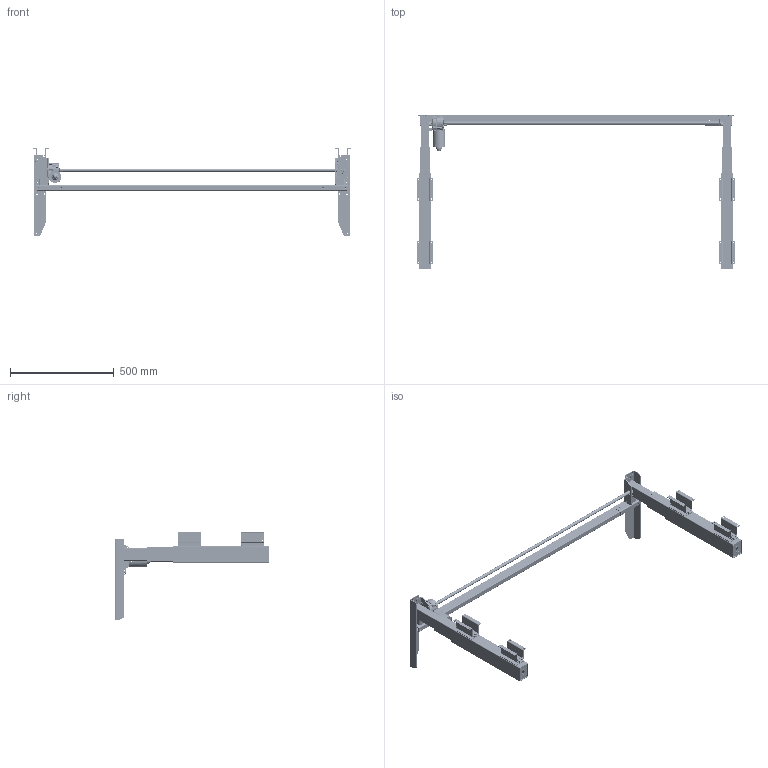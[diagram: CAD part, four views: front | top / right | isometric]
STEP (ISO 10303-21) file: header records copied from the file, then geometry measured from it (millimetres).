
FILE_DESCRIPTION (( 'STEP AP214' ), '1' );
FILE_NAME ('Tech-draw_501-39_XX152.STEP', '2024-09-11T10:52:17', ( '' ), ( '' ), 'SwSTEP 2.0', 'SolidWorks 2023', '' );
FILE_SCHEMA (( 'AUTOMOTIVE_DESIGN' ));
Length unit declared in the file: millimetre
Products named in the file (106): 160590_Shell view; 341800; 359090; 301890; 341220; 142920_Shell view; 342990; 321260; 144260_152; 328870; 335380; 311580; 321180; 346340; 346210_White; 340560; 356120; 321190; 314130; 346640; 341000_lower; 325430; 346190_White; 134800; 346800; 333160; 333190; 135010; 361520; 361540; 160600; 142800_rubber direction a; Tech-draw_501-39_XX152; 333180; 347920_152; 134810; 346840; 361530; 346910; 343010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
Assembly tree (306 placements, depth 7):
  Tech-draw_501-39_XX152
    347910_152
    144260_152
      347920_152
      340560
      341220
    161150_Shell view
      361530
      361570  x2
      160630  x2
        361550
        361560
      160590_Shell view
        342310  x8
        341800  x10
        341800_silver  x6
        346910
        356120
        160560
          361520
          356850
        160580
          356130
          346640
          346330_White
          346200  x2
          346190_White
          345000
        142910_shell view
          346140
          600470
          320130
          142920_Shell view
            142800_rubber direction a
              321180
              321140.
            321190
            321840
            335380
            134750
              336230.
              340430
            321260  x2
            135010
              339870
            346890
            335900_Assembly  x3
            341330
          321150
          301890
          315360_Ingen kontaktarm
          325430
          311580  x3
          333420  x2
          321840
          142850_shell view
            346830
            346840
          346790  x2
          346800
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Bounding box: 1533.9 x 742.65 x 426.4 mm (x, y, z)
Volume: 2694238.4 mm3; surface area: 2810319.7 mm2
Topology: 288 solids, 288 shells, 13237 faces, 34662 edges, 22759 vertices
Faces by surface type: plane 6443, cylinder 4726, bspline 1321, cone 388, torus 316, sphere 43
Full cylindrical faces by diameter (mm): 1.2 x2, 1.5 x1, 1.8 x1, 1.9 x3, 2 x12, 2.2 x1, 2.3 x1, 2.4 x489, 2.5 x4, 2.9 x2, 3 x41, 3.1 x2, 3.2 x2, 3.3 x10, 3.5 x2, 3.6 x1, 4 x28, 4.1 x1, 4.2 x6, 4.3 x1, 4.5 x6, 4.6 x4, 4.95 x122, 4.98 x1, 5 x55, 5.05 x4, 5.2 x1, 5.5 x18, 5.6 x2, 5.7 x1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
Entity records: 316096 total; most frequent: CARTESIAN_POINT 137229, ORIENTED_EDGE 39234, DIRECTION 31821, EDGE_CURVE 19617, VERTEX_POINT 12995, AXIS2_PLACEMENT_3D 11285, VECTOR 9251, LINE 9251
